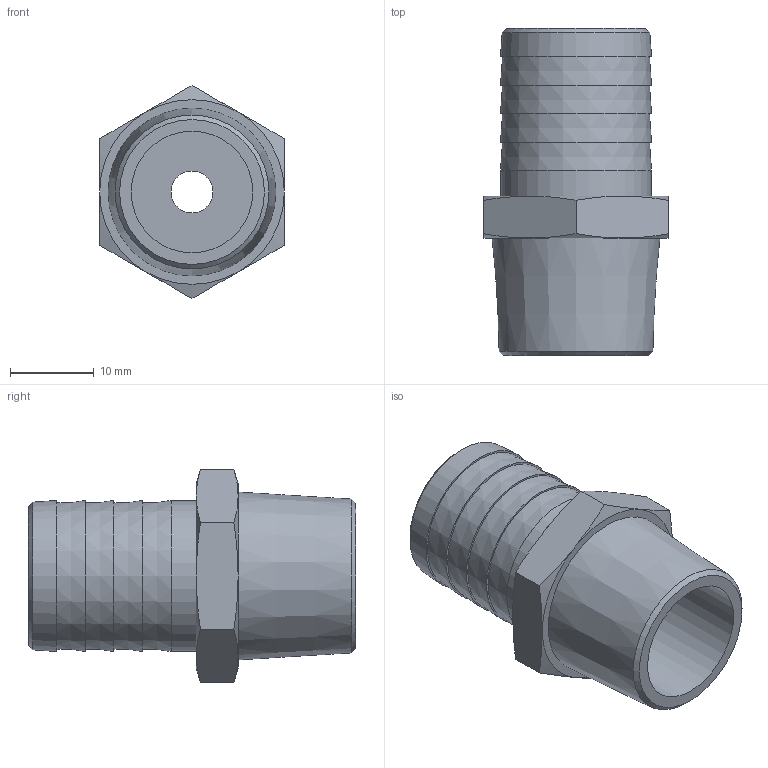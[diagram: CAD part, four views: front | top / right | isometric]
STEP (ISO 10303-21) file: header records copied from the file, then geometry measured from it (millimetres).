
FILE_DESCRIPTION(/* description */ (''),/* implementation_level */ '2;1');
FILE_NAME(/* name */ 'BXH09 18B4 00.stp',/* time_stamp */ '2026-06-22T11:08:11+02:00',/* author */ ('freju'),/* organization */ (''),/* preprocessor_version */ 'ST-DEVELOPER v20.1',/* originating_system */ 'Autodesk Inventor 2026',/* authorisation */ '');
FILE_SCHEMA (('AUTOMOTIVE_DESIGN { 1 0 10303 214 3 1 1 }'));
Length unit declared in the file: millimetre
Products named in the file (1): BXH09 18B4 00
Bounding box: 22 x 39 x 25.4 mm (x, y, z)
Volume: 7981.7 mm3; surface area: 4167.7 mm2
Topology: 1 solids, 1 shells, 38 faces, 74 edges, 45 vertices
Faces by surface type: cone 20, plane 15, cylinder 3
Full cylindrical faces by diameter (mm): 5 x1, 14.5 x1, 18 x1
Entity records: 990 total; most frequent: CARTESIAN_POINT 206, DIRECTION 161, ORIENTED_EDGE 148, EDGE_CURVE 74, AXIS2_PLACEMENT_3D 72, EDGE_LOOP 47, VERTEX_POINT 45, FACE_OUTER_BOUND 38
